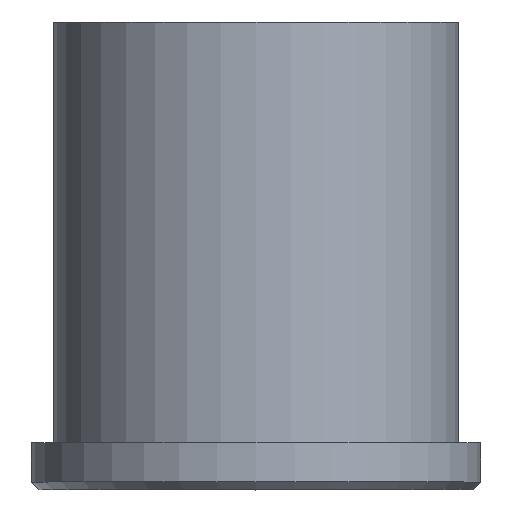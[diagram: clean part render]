
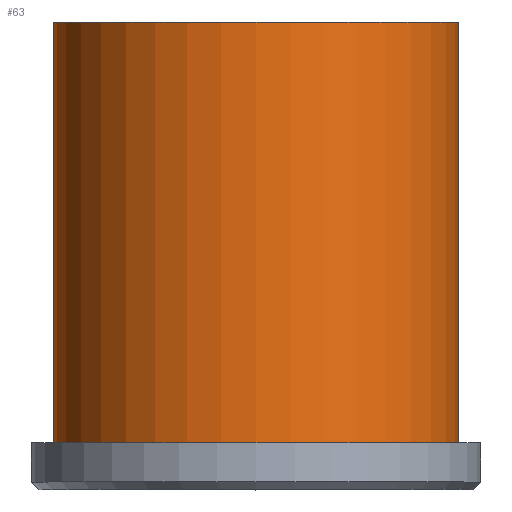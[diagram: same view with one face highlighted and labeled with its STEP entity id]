
A CAD part, top view. The second image highlights one B-rep face of the part: STEP entity #63.
In plain terms, the highlighted cylindrical face has radius 20.644 mm (diameter 41.288 mm), a partial arc.
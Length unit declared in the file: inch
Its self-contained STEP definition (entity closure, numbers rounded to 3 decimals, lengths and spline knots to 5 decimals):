
#2 = VERTEX_POINT ( 'NONE', #154 ) ;
#3 = VERTEX_POINT ( 'NONE', #153 ) ;
#4 = ORIENTED_EDGE ( 'NONE', *, *, #99, .T. ) ;
#5 = VERTEX_POINT ( 'NONE', #152 ) ;
#6 = ORIENTED_EDGE ( 'NONE', *, *, #14, .F. ) ;
#8 = EDGE_CURVE ( 'NONE', #3, #5, #159, .T. ) ;
#9 = VERTEX_POINT ( 'NONE', #160 ) ;
#10 = EDGE_CURVE ( 'NONE', #2, #9, #181, .T. ) ;
#11 = ORIENTED_EDGE ( 'NONE', *, *, #8, .T. ) ;
#14 = EDGE_CURVE ( 'NONE', #9, #5, #200, .T. ) ;
#63 = ADVANCED_FACE ( 'NONE', ( #261 ), #257, .T. ) ;
#76 = EDGE_LOOP ( 'NONE', ( #4, #11, #6, #100 ) ) ;
#99 = EDGE_CURVE ( 'NONE', #2, #3, #385, .T. ) ;
#100 = ORIENTED_EDGE ( 'NONE', *, *, #10, .F. ) ;
#152 = CARTESIAN_POINT ( 'NONE',  ( -0.81275, 0.1875, 0. ) ) ;
#153 = CARTESIAN_POINT ( 'NONE',  ( -0.81275, 1.875, 0. ) ) ;
#154 = CARTESIAN_POINT ( 'NONE',  ( 0.81275, 1.875, 0. ) ) ;
#159 = LINE ( 'NONE', #185, #161 ) ;
#160 = CARTESIAN_POINT ( 'NONE',  ( 0.81275, 0.1875, 0. ) ) ;
#161 = VECTOR ( 'NONE', #184, 39.37008 ) ;
#181 = LINE ( 'NONE', #194, #193 ) ;
#184 = DIRECTION ( 'NONE',  ( 0., -1., 0. ) ) ;
#185 = CARTESIAN_POINT ( 'NONE',  ( -0.81275, -39.37008, 0. ) ) ;
#192 = DIRECTION ( 'NONE',  ( 0., -1., 0. ) ) ;
#193 = VECTOR ( 'NONE', #192, 39.37008 ) ;
#194 = CARTESIAN_POINT ( 'NONE',  ( 0.81275, -39.37008, 0. ) ) ;
#196 = DIRECTION ( 'NONE',  ( 1., 0., 0. ) ) ;
#197 = DIRECTION ( 'NONE',  ( 0., -1., 0. ) ) ;
#198 = CARTESIAN_POINT ( 'NONE',  ( 0., 0.1875, 0. ) ) ;
#199 = AXIS2_PLACEMENT_3D ( 'NONE', #198, #197, #196 ) ;
#200 = CIRCLE ( 'NONE', #199, 0.81275 ) ;
#227 = DIRECTION ( 'NONE',  ( 1., 0., 0. ) ) ;
#228 = DIRECTION ( 'NONE',  ( 0., -1., 0. ) ) ;
#257 = CYLINDRICAL_SURFACE ( 'NONE', #260, 0.81275 ) ;
#259 = CARTESIAN_POINT ( 'NONE',  ( 0., -39.37008, 0. ) ) ;
#260 = AXIS2_PLACEMENT_3D ( 'NONE', #259, #228, #227 ) ;
#261 = FACE_OUTER_BOUND ( 'NONE', #76, .T. ) ;
#313 = DIRECTION ( 'NONE',  ( 1., 0., 0. ) ) ;
#384 = AXIS2_PLACEMENT_3D ( 'NONE', #394, #393, #313 ) ;
#385 = CIRCLE ( 'NONE', #384, 0.81275 ) ;
#393 = DIRECTION ( 'NONE',  ( 0., -1., 0. ) ) ;
#394 = CARTESIAN_POINT ( 'NONE',  ( 0., 1.875, 0. ) ) ;
